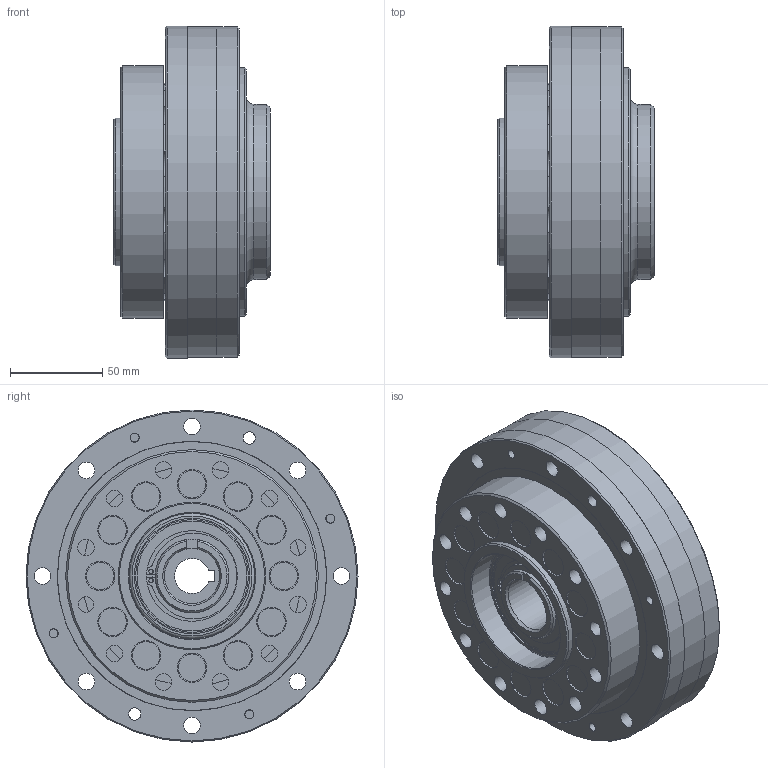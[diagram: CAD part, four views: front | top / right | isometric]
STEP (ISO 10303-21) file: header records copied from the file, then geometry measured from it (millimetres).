
FILE_DESCRIPTION(/* description */ ('Katalogmodell FC-A35G '),/* implementation_level */ '2;1');
FILE_NAME(/* name */ 'C:\Users\ADMINI~1\AppData\Local\Temp\MM16_01_03_Katalogmodell_FC-A35G_.stp',/* time_stamp */ '2018-06-12T17:12:22+02:00',/* author */ ('Max'),/* organization */ (''),/* preprocessor_version */ 'ST-DEVELOPER v17',/* originating_system */ 'Autodesk Inventor 2018',/* authorisation */ '');
FILE_SCHEMA (('AUTOMOTIVE_DESIGN { 1 0 10303 214 3 1 1 }'));
Length unit declared in the file: millimetre
Products named in the file (11): 16_01_03; MM554953-bg; MM133232; MM133225; MM133224; 201592; 200416; 5006008RS---G; 210894; 133231; MM133223
Assembly tree (15 placements, depth 3):
  16_01_03
    MM554953-bg
      MM133232
      MM133225
      MM133224
      5006008RS---G  x2
      201592
      210894  x2
      200416  x4
    133231
    MM133223
Bounding box: 85 x 180 x 180 mm (x, y, z)
Volume: 1263305.9 mm3; surface area: 280157.7 mm2
Topology: 38 solids, 40 shells, 381 faces, 1010 edges, 719 vertices
Faces by surface type: cylinder 176, plane 139, cone 25, sphere 24, torus 17
Full cylindrical faces by diameter (mm): 2.5 x4, 3 x2, 4.917 x4, 6 x4, 6.6 x4, 6.647 x2, 8.376 x2, 9 x28, 10 x4, 11 x4, 14 x12, 15 x12, 16 x12, 30 x1, 38 x2, 40 x6, 43.5 x1, 49 x1, 49.2 x8, 59.5 x4, 62 x1, 62.5 x4, 68 x5, 70 x1, 71 x1, 80 x1, 95 x1, 119 x1, 135 x1, 137 x1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
Entity records: 9848 total; most frequent: DIRECTION 1848, CARTESIAN_POINT 1612, ORIENTED_EDGE 1464, AXIS2_PLACEMENT_3D 816, EDGE_CURVE 732, VERTEX_POINT 541, CIRCLE 503, EDGE_LOOP 441
